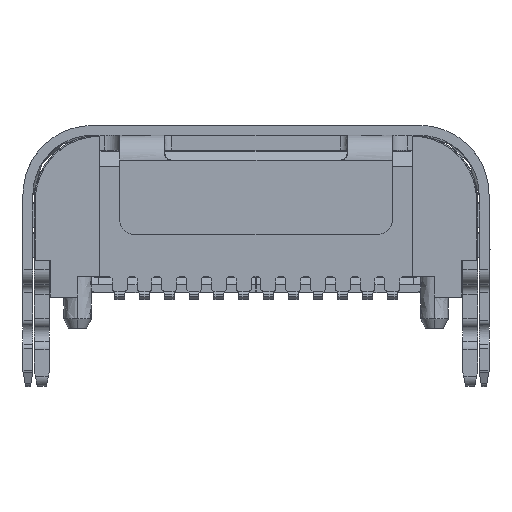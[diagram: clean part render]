
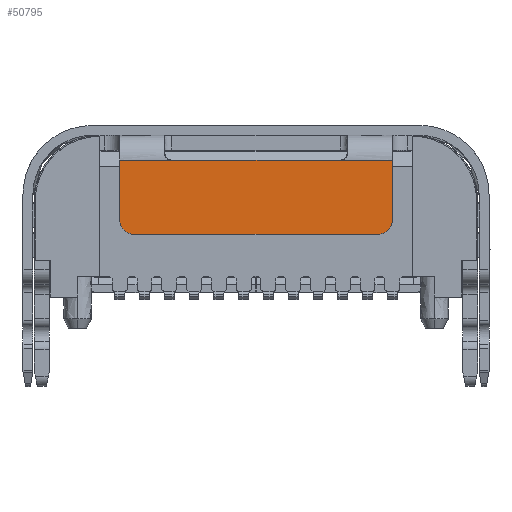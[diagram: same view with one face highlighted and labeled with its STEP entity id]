
A CAD part, top view. The second image highlights one B-rep face of the part: STEP entity #50795.
In plain terms, the highlighted free-form (B-spline) face has degree [1, 1] with [2, 2] control points.
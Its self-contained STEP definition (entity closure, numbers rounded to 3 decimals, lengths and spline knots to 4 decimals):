
#1431 = CARTESIAN_POINT ( 'NONE',  ( 1.7, 1.08, 11.15 ) ) ;
#1759 = EDGE_CURVE ( 'NONE', #7060, #39679, #50477, .T. ) ;
#2208 = CARTESIAN_POINT ( 'NONE',  ( 2.6066, -0.3877, 11.15 ) ) ;
#3295 = B_SPLINE_CURVE_WITH_KNOTS ( 'NONE', 1,
 ( #11063, #17677 ),
 .UNSPECIFIED., .F., .F.,
 ( 2, 2 ),
 ( 0., 1. ),
 .UNSPECIFIED. ) ;
#5319 = CARTESIAN_POINT ( 'NONE',  ( -2.45, -0.42, 11.15 ) ) ;
#5532 = CARTESIAN_POINT ( 'NONE',  ( 2.86, 1.11, 11.15 ) ) ;
#7060 = VERTEX_POINT ( 'NONE', #81093 ) ;
#10121 = CARTESIAN_POINT ( 'NONE',  ( -2.75, -0.12, 11.15 ) ) ;
#11063 = CARTESIAN_POINT ( 'NONE',  ( 2.75, 1.08, 11.15 ) ) ;
#16446 = CARTESIAN_POINT ( 'NONE',  ( 1.7, 1.08, 11.15 ) ) ;
#16880 = CARTESIAN_POINT ( 'NONE',  ( -2.75, -0.12, 11.15 ) ) ;
#17677 = CARTESIAN_POINT ( 'NONE',  ( 1.7, 1.08, 11.15 ) ) ;
#20588 = ORIENTED_EDGE ( 'NONE', *, *, #21491, .T. ) ;
#20851 = B_SPLINE_CURVE_WITH_KNOTS ( 'NONE', 1,
 ( #35596, #30208 ),
 .UNSPECIFIED., .F., .F.,
 ( 2, 2 ),
 ( 0., 1. ),
 .UNSPECIFIED. ) ;
#21491 = EDGE_CURVE ( 'NONE', #30001, #76313, #70243, .T. ) ;
#23298 = ORIENTED_EDGE ( 'NONE', *, *, #72313, .T. ) ;
#26171 = B_SPLINE_CURVE_WITH_KNOTS ( 'NONE', 1,
 ( #38349, #81915 ),
 .UNSPECIFIED., .F., .F.,
 ( 2, 2 ),
 ( 0., 1. ),
 .UNSPECIFIED. ) ;
#29353 = B_SPLINE_SURFACE_WITH_KNOTS ( 'NONE', 1, 1, ( 
 ( #80115, #36969 ),
 ( #5532, #48598 ) ),
 .UNSPECIFIED., .F., .F., .F.,
 ( 2, 2 ),
 ( 2, 2 ),
 ( -0.33, 1.23 ),
 ( -0.41, 5.31 ),
 .UNSPECIFIED. ) ;
#30001 = VERTEX_POINT ( 'NONE', #1431 ) ;
#30208 = CARTESIAN_POINT ( 'NONE',  ( 2.45, -0.42, 11.15 ) ) ;
#30485 = CARTESIAN_POINT ( 'NONE',  ( -2.5286, -0.4202, 11.15 ) ) ;
#31019 = VERTEX_POINT ( 'NONE', #5319 ) ;
#32864 = CARTESIAN_POINT ( 'NONE',  ( 2.75, -0.12, 11.15 ) ) ;
#33166 = VERTEX_POINT ( 'NONE', #76423 ) ;
#35596 = CARTESIAN_POINT ( 'NONE',  ( -2.45, -0.42, 11.15 ) ) ;
#36479 = EDGE_LOOP ( 'NONE', ( #79757, #40968, #23298, #20588, #78903, #68301, #81137, #71794 ) ) ;
#36756 = CARTESIAN_POINT ( 'NONE',  ( -2.75, 1.08, 11.15 ) ) ;
#36969 = CARTESIAN_POINT ( 'NONE',  ( -2.86, -0.45, 11.15 ) ) ;
#37681 = VERTEX_POINT ( 'NONE', #50864 ) ;
#38052 = EDGE_CURVE ( 'NONE', #68311, #33166, #26171, .T. ) ;
#38349 = CARTESIAN_POINT ( 'NONE',  ( 2.75, -0.12, 11.15 ) ) ;
#39054 = CARTESIAN_POINT ( 'NONE',  ( 2.45, -0.42, 11.15 ) ) ;
#39679 = VERTEX_POINT ( 'NONE', #10121 ) ;
#39983 = CARTESIAN_POINT ( 'NONE',  ( -2.75, 1.08, 11.15 ) ) ;
#40532 = EDGE_CURVE ( 'NONE', #76313, #7060, #66128, .T. ) ;
#40968 = ORIENTED_EDGE ( 'NONE', *, *, #38052, .T. ) ;
#48598 = CARTESIAN_POINT ( 'NONE',  ( -2.86, 1.11, 11.15 ) ) ;
#50477 = B_SPLINE_CURVE_WITH_KNOTS ( 'NONE', 1,
 ( #39983, #58613 ),
 .UNSPECIFIED., .F., .F.,
 ( 2, 2 ),
 ( 0., 1. ),
 .UNSPECIFIED. ) ;
#50795 = ADVANCED_FACE ( 'NONE', ( #68843 ), #29353, .T. ) ;
#50864 = CARTESIAN_POINT ( 'NONE',  ( 2.45, -0.42, 11.15 ) ) ;
#56144 = CARTESIAN_POINT ( 'NONE',  ( -2.6066, -0.3877, 11.15 ) ) ;
#58029 = B_SPLINE_CURVE_WITH_KNOTS ( 'NONE', 3,
 ( #16880, #63577, #75625, #56144, #30485, #76043 ),
 .UNSPECIFIED., .F., .F.,
 ( 4, 2, 4 ),
 ( 0., 0.7854, 1.5708 ),
 .UNSPECIFIED. ) ;
#58613 = CARTESIAN_POINT ( 'NONE',  ( -2.75, -0.12, 11.15 ) ) ;
#58904 = CARTESIAN_POINT ( 'NONE',  ( 2.5286, -0.4202, 11.15 ) ) ;
#60289 = CARTESIAN_POINT ( 'NONE',  ( -1.7, 1.08, 11.15 ) ) ;
#61038 = CARTESIAN_POINT ( 'NONE',  ( -1.7, 1.08, 11.15 ) ) ;
#63185 = CARTESIAN_POINT ( 'NONE',  ( 2.75, -0.12, 11.15 ) ) ;
#63223 = CARTESIAN_POINT ( 'NONE',  ( -1.7, 1.08, 11.15 ) ) ;
#63577 = CARTESIAN_POINT ( 'NONE',  ( -2.7502, -0.1986, 11.15 ) ) ;
#64321 = CARTESIAN_POINT ( 'NONE',  ( 2.7177, -0.2766, 11.15 ) ) ;
#66128 = B_SPLINE_CURVE_WITH_KNOTS ( 'NONE', 1,
 ( #63223, #36756 ),
 .UNSPECIFIED., .F., .F.,
 ( 2, 2 ),
 ( 0., 1. ),
 .UNSPECIFIED. ) ;
#66225 = EDGE_CURVE ( 'NONE', #37681, #68311, #70242, .T. ) ;
#68301 = ORIENTED_EDGE ( 'NONE', *, *, #1759, .T. ) ;
#68311 = VERTEX_POINT ( 'NONE', #63185 ) ;
#68843 = FACE_OUTER_BOUND ( 'NONE', #36479, .T. ) ;
#70242 = B_SPLINE_CURVE_WITH_KNOTS ( 'NONE', 3,
 ( #39054, #58904, #2208, #64321, #76369, #32864 ),
 .UNSPECIFIED., .F., .F.,
 ( 4, 2, 4 ),
 ( 0., 0.7854, 1.5708 ),
 .UNSPECIFIED. ) ;
#70243 = B_SPLINE_CURVE_WITH_KNOTS ( 'NONE', 1,
 ( #16446, #60289 ),
 .UNSPECIFIED., .F., .F.,
 ( 2, 2 ),
 ( 0., 1. ),
 .UNSPECIFIED. ) ;
#71794 = ORIENTED_EDGE ( 'NONE', *, *, #76656, .T. ) ;
#72313 = EDGE_CURVE ( 'NONE', #33166, #30001, #3295, .T. ) ;
#75625 = CARTESIAN_POINT ( 'NONE',  ( -2.7177, -0.2766, 11.15 ) ) ;
#76043 = CARTESIAN_POINT ( 'NONE',  ( -2.45, -0.42, 11.15 ) ) ;
#76313 = VERTEX_POINT ( 'NONE', #61038 ) ;
#76369 = CARTESIAN_POINT ( 'NONE',  ( 2.7502, -0.1986, 11.15 ) ) ;
#76423 = CARTESIAN_POINT ( 'NONE',  ( 2.75, 1.08, 11.15 ) ) ;
#76656 = EDGE_CURVE ( 'NONE', #31019, #37681, #20851, .T. ) ;
#77712 = EDGE_CURVE ( 'NONE', #39679, #31019, #58029, .T. ) ;
#78903 = ORIENTED_EDGE ( 'NONE', *, *, #40532, .T. ) ;
#79757 = ORIENTED_EDGE ( 'NONE', *, *, #66225, .T. ) ;
#80115 = CARTESIAN_POINT ( 'NONE',  ( 2.86, -0.45, 11.15 ) ) ;
#81093 = CARTESIAN_POINT ( 'NONE',  ( -2.75, 1.08, 11.15 ) ) ;
#81137 = ORIENTED_EDGE ( 'NONE', *, *, #77712, .T. ) ;
#81915 = CARTESIAN_POINT ( 'NONE',  ( 2.75, 1.08, 11.15 ) ) ;
